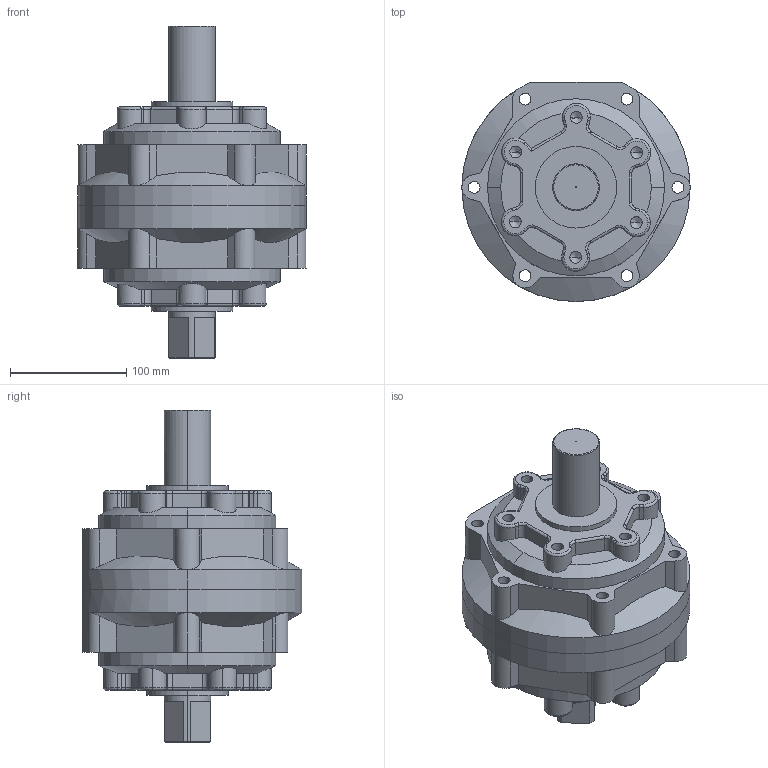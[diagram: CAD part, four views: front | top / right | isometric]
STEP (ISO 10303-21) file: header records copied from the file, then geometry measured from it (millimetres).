
FILE_DESCRIPTION (( 'STEP AP203' ), '1' );
FILE_NAME ('PRN800.STEP', '2016-01-14T16:50:06', ( '' ), ( '' ), 'SwSTEP 2.0', 'SolidWorks 2014', '' );
FILE_SCHEMA (( 'CONFIG_CONTROL_DESIGN' ));
Length unit declared in the file: millimetre
Products named in the file (5): PRN800 (3); PRN800; PRN800 (1); PRN800 (2); mark-PRN800
Assembly tree (4 placements, depth 2):
  PRN800
    PRN800 (1)
    PRN800 (2)
    PRN800 (3)
    mark-PRN800
Bounding box: 196 x 188.2 x 285 mm (x, y, z)
Volume: 3738966.7 mm3; surface area: 295967.1 mm2
Topology: 10 solids, 10 shells, 494 faces, 1249 edges, 770 vertices
Faces by surface type: cylinder 204, plane 176, cone 55, torus 51, bspline 8
Entity records: 16336 total; most frequent: CARTESIAN_POINT 3837, DIRECTION 2612, ORIENTED_EDGE 2442, EDGE_CURVE 1221, AXIS2_PLACEMENT_3D 999, VERTEX_POINT 770, VECTOR 614, LINE 614
